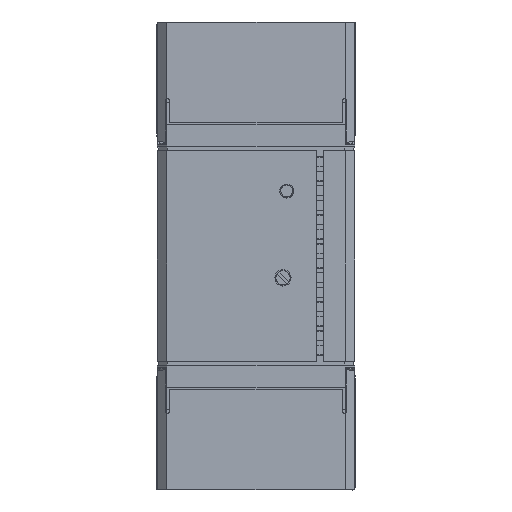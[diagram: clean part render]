
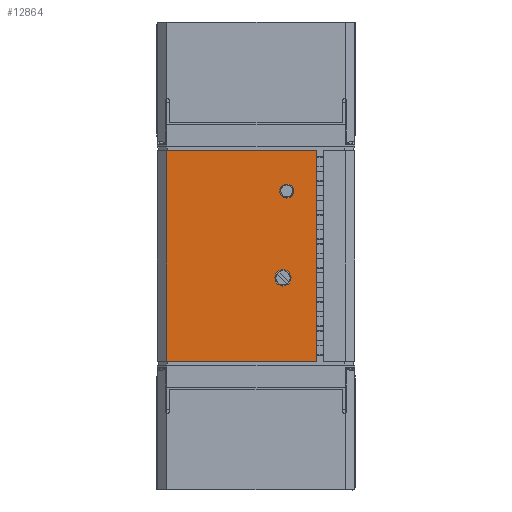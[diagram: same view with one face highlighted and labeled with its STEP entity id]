
A CAD part, top view. The second image highlights one B-rep face of the part: STEP entity #12864.
In plain terms, the highlighted planar face has unit normal (0, 0, 1) as drawn and (0, -1, 0) by its records, which use the part's own axes.
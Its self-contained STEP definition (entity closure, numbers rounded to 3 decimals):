
#1050 = CARTESIAN_POINT ( 'NONE',  ( 0., 0., 0. ) ) ;
#1302 = EDGE_CURVE ( 'NONE', #1495, #5908, #46048, .T. ) ;
#1495 = VERTEX_POINT ( 'NONE', #27990 ) ;
#2214 = VECTOR ( 'NONE', #38520, 1000. ) ;
#3840 = EDGE_CURVE ( 'NONE', #49127, #65548, #37178, .T. ) ;
#5251 = CARTESIAN_POINT ( 'NONE',  ( 54.15, 0., -23.75 ) ) ;
#5908 = VERTEX_POINT ( 'NONE', #66203 ) ;
#7185 = DIRECTION ( 'NONE',  ( 0., 1., 0. ) ) ;
#7634 = LINE ( 'NONE', #56782, #27761 ) ;
#8146 = CIRCLE ( 'NONE', #51960, 2.15 ) ;
#8613 = CARTESIAN_POINT ( 'NONE',  ( -17.233, 0., 6.315 ) ) ;
#9432 = AXIS2_PLACEMENT_3D ( 'NONE', #15983, #64388, #70835 ) ;
#10388 = AXIS2_PLACEMENT_3D ( 'NONE', #1050, #7185, #62477 ) ;
#10608 = CARTESIAN_POINT ( 'NONE',  ( -17.233, 0., 8.165 ) ) ;
#11201 = FACE_OUTER_BOUND ( 'NONE', #13531, .T. ) ;
#11392 = ORIENTED_EDGE ( 'NONE', *, *, #1302, .F. ) ;
#12499 = DIRECTION ( 'NONE',  ( 0., 0., 1. ) ) ;
#12864 = ADVANCED_FACE ( 'NONE', ( #52637, #16999, #11201 ), #37950, .F. ) ;
#13531 = EDGE_LOOP ( 'NONE', ( #40595, #69198, #17329, #11392 ) ) ;
#13897 = CARTESIAN_POINT ( 'NONE',  ( 28., 0., -23.75 ) ) ;
#14153 = ORIENTED_EDGE ( 'NONE', *, *, #67829, .F. ) ;
#14852 = EDGE_LOOP ( 'NONE', ( #70766, #16733 ) ) ;
#15983 = CARTESIAN_POINT ( 'NONE',  ( -17.233, 0., 8.165 ) ) ;
#16733 = ORIENTED_EDGE ( 'NONE', *, *, #23866, .F. ) ;
#16999 = FACE_BOUND ( 'NONE', #14852, .T. ) ;
#17329 = ORIENTED_EDGE ( 'NONE', *, *, #66817, .F. ) ;
#17442 = VERTEX_POINT ( 'NONE', #28002 ) ;
#18013 = CARTESIAN_POINT ( 'NONE',  ( 5.826, 0., 7.165 ) ) ;
#19776 = DIRECTION ( 'NONE',  ( 0., 0., -1. ) ) ;
#21753 = CARTESIAN_POINT ( 'NONE',  ( 28., 0., -23.75 ) ) ;
#23806 = VECTOR ( 'NONE', #12499, 1000. ) ;
#23866 = EDGE_CURVE ( 'NONE', #65548, #49127, #8146, .T. ) ;
#24440 = CIRCLE ( 'NONE', #9432, 1.85 ) ;
#26364 = VERTEX_POINT ( 'NONE', #8613 ) ;
#26738 = CIRCLE ( 'NONE', #27857, 1.85 ) ;
#27290 = VERTEX_POINT ( 'NONE', #35389 ) ;
#27721 = LINE ( 'NONE', #5251, #2214 ) ;
#27761 = VECTOR ( 'NONE', #62921, 1000. ) ;
#27857 = AXIS2_PLACEMENT_3D ( 'NONE', #10608, #64478, #32284 ) ;
#27990 = CARTESIAN_POINT ( 'NONE',  ( -28., 0., -23.75 ) ) ;
#28002 = CARTESIAN_POINT ( 'NONE',  ( 28., 0., 16.05 ) ) ;
#32284 = DIRECTION ( 'NONE',  ( 0., 0., -1. ) ) ;
#35389 = CARTESIAN_POINT ( 'NONE',  ( -17.233, 0., 10.015 ) ) ;
#37178 = CIRCLE ( 'NONE', #67164, 2.15 ) ;
#37875 = CARTESIAN_POINT ( 'NONE',  ( 5.826, 0., 5.015 ) ) ;
#37950 = PLANE ( 'NONE',  #10388 ) ;
#38520 = DIRECTION ( 'NONE',  ( 1., 0., 0. ) ) ;
#39409 = CARTESIAN_POINT ( 'NONE',  ( 5.826, 0., 9.315 ) ) ;
#39936 = CARTESIAN_POINT ( 'NONE',  ( -28., 0., -23.75 ) ) ;
#40595 = ORIENTED_EDGE ( 'NONE', *, *, #51841, .T. ) ;
#41510 = VECTOR ( 'NONE', #43742, 1000. ) ;
#43742 = DIRECTION ( 'NONE',  ( 0., 0., -1. ) ) ;
#46048 = LINE ( 'NONE', #39936, #23806 ) ;
#49127 = VERTEX_POINT ( 'NONE', #37875 ) ;
#49414 = DIRECTION ( 'NONE',  ( 0., -1., 0. ) ) ;
#51841 = EDGE_CURVE ( 'NONE', #1495, #61282, #27721, .T. ) ;
#51874 = CARTESIAN_POINT ( 'NONE',  ( 5.826, 0., 7.165 ) ) ;
#51960 = AXIS2_PLACEMENT_3D ( 'NONE', #18013, #49414, #60630 ) ;
#52637 = FACE_BOUND ( 'NONE', #56226, .T. ) ;
#56226 = EDGE_LOOP ( 'NONE', ( #14153, #69296 ) ) ;
#56782 = CARTESIAN_POINT ( 'NONE',  ( -28., 0., 16.05 ) ) ;
#60630 = DIRECTION ( 'NONE',  ( 0., 0., -1. ) ) ;
#61282 = VERTEX_POINT ( 'NONE', #13897 ) ;
#62477 = DIRECTION ( 'NONE',  ( 0., 0., 1. ) ) ;
#62921 = DIRECTION ( 'NONE',  ( 1., 0., 0. ) ) ;
#64388 = DIRECTION ( 'NONE',  ( 0., -1., 0. ) ) ;
#64478 = DIRECTION ( 'NONE',  ( 0., -1., 0. ) ) ;
#65489 = EDGE_CURVE ( 'NONE', #17442, #61282, #71195, .T. ) ;
#65548 = VERTEX_POINT ( 'NONE', #39409 ) ;
#66203 = CARTESIAN_POINT ( 'NONE',  ( -28., 0., 16.05 ) ) ;
#66817 = EDGE_CURVE ( 'NONE', #5908, #17442, #7634, .T. ) ;
#67164 = AXIS2_PLACEMENT_3D ( 'NONE', #51874, #68155, #19776 ) ;
#67550 = EDGE_CURVE ( 'NONE', #27290, #26364, #26738, .T. ) ;
#67829 = EDGE_CURVE ( 'NONE', #26364, #27290, #24440, .T. ) ;
#68155 = DIRECTION ( 'NONE',  ( 0., -1., 0. ) ) ;
#69198 = ORIENTED_EDGE ( 'NONE', *, *, #65489, .F. ) ;
#69296 = ORIENTED_EDGE ( 'NONE', *, *, #67550, .F. ) ;
#70766 = ORIENTED_EDGE ( 'NONE', *, *, #3840, .F. ) ;
#70835 = DIRECTION ( 'NONE',  ( 0., 0., -1. ) ) ;
#71195 = LINE ( 'NONE', #21753, #41510 ) ;
